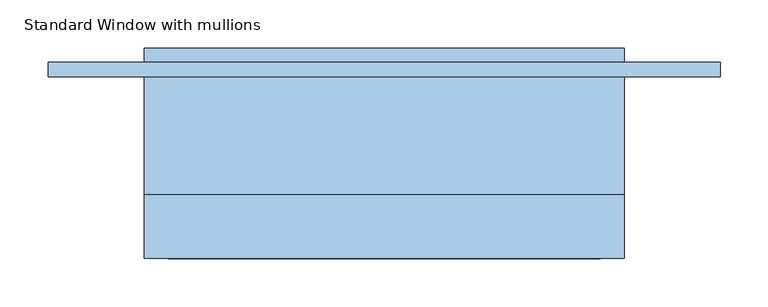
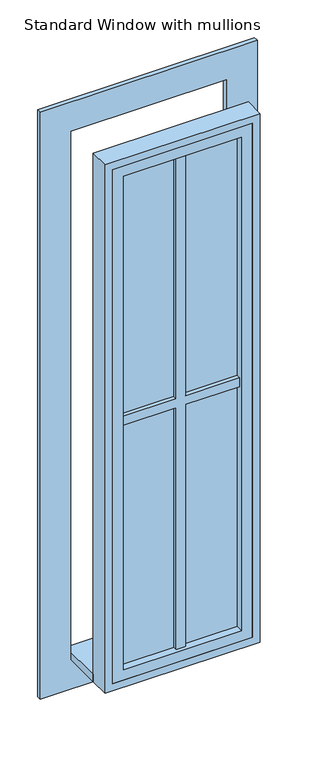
"""IFC4 building model written with IfcOpenShell, lengths in millimetres: window geometry, Standard Window with mullions : 500/1800."""

from ifc_helpers import new_model, si_unit, frame, origin, origin_with_axes, place, context, project, spatial, polyline, outline, extrude, source, transform, mapped, element, save


def standard_window_with_mullions_8db575f9(model_context):
    return source(origin(), model_context, "Body", "SweptSolid", [
        extrude(outline(polyline([(250.0, 26.9623738), (-250.0, 26.9623738), (-250.0, 180.0), (250.0, 180.0), (250.0, 26.9623738)])), origin_with_axes(), (0.0, 0.0, 1.0), 25.0),
        extrude(outline(polyline([(1900.0, -350.0), (-100.0, -350.0), (-100.0, 350.0), (1900.0, 350.0), (1900.0, -350.0)]), holes=[polyline([(1800.0, -250.0), (1800.0, 250.0), (0.0, 250.0), (0.0, -250.0), (1800.0, -250.0)])]), frame((0.0, 150.0, 0.0), z_axis=(0.0, 1.0, 0.0), x_axis=(0.0, 0.0, 1.0)), (0.0, 0.0, 1.0), 15.0),
        extrude(outline(polyline([(1775.0, -225.0), (25.0, -225.0), (25.0, 225.0), (1775.0, 225.0), (1775.0, -225.0)]), holes=[polyline([(1740.0, -190.0), (1740.0, 190.0), (60.0, 190.0), (60.0, -190.0), (1740.0, -190.0)])]), frame((0.0, -39.0188131, 0.0), z_axis=(0.0, 1.0, 0.0), x_axis=(0.0, 0.0, 1.0)), (0.0, 0.0, 1.0), 50.5),
        extrude(outline(polyline([(0.0, -250.0), (0.0, 250.0), (1800.0, 250.0), (1800.0, -250.0), (0.0, -250.0)]), holes=[polyline([(25.0, -225.0), (1775.0, -225.0), (1775.0, 225.0), (25.0, 225.0), (25.0, -225.0)])]), frame((0.0, -39.0188131, 0.0), z_axis=(0.0, 1.0, 0.0), x_axis=(0.0, 0.0, 1.0)), (0.0, 0.0, 1.0), 65.9811869),
        extrude(outline(polyline([(915.0, 190.0), (915.0, 15.0), (1740.0, 15.0), (1740.0, -15.0), (915.0, -15.0), (915.0, -190.0), (885.0, -190.0), (885.0, -15.0), (60.0, -15.0), (60.0, 15.0), (885.0, 15.0), (885.0, 190.0), (915.0, 190.0)])), frame((0.0, -28.5188131, 0.0), z_axis=(0.0, 1.0, 0.0), x_axis=(0.0, 0.0, 1.0)), (0.0, 0.0, 1.0), 20.0),
        extrude(outline(polyline([(190.0, -15.5188131), (-190.0, -15.5188131), (-190.0, -13.5188131), (190.0, -13.5188131), (190.0, -15.5188131)])), frame((0.0, 0.0, 60.0), z_axis=(0.0, 0.0, 1.0), x_axis=(1.0, 0.0, 0.0)), (0.0, 0.0, 1.0), 1680.0),
    ])


if __name__ == "__main__":
    model = new_model("IFC4")
    model_context = context("Model", 3, world=origin())
    ifc_project = project(units=[si_unit("LENGTHUNIT", "METRE", prefix="MILLI")], contexts=[model_context])
    site = spatial("IfcSite", under=ifc_project)
    building = spatial("IfcBuilding", under=site)
    placement = place(None, origin())
    standard_window_with_mullions_shape = standard_window_with_mullions_8db575f9(model_context)
    element("IfcWindow", 1, ObjectType="Standard Window with mullions : 500/1800", at=placement, inside=building, context=model_context, shape_type="MappedRepresentation", body=[
        mapped(standard_window_with_mullions_shape, transform((0.0, 0.0, 0.0), x_axis=(1.0, 0.0, 0.0), y_axis=(0.0, 1.0, 0.0), z_axis=(0.0, 0.0, 1.0))),
    ])
    save(model, "model.ifc")
